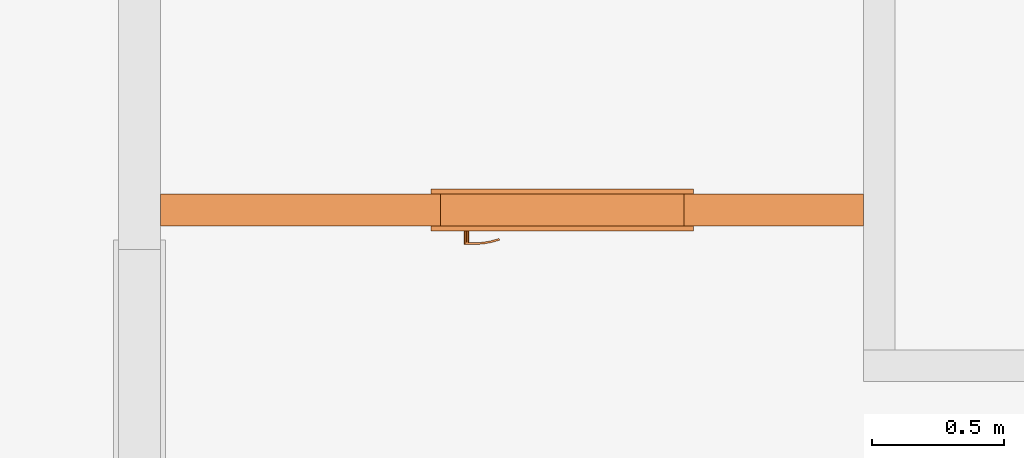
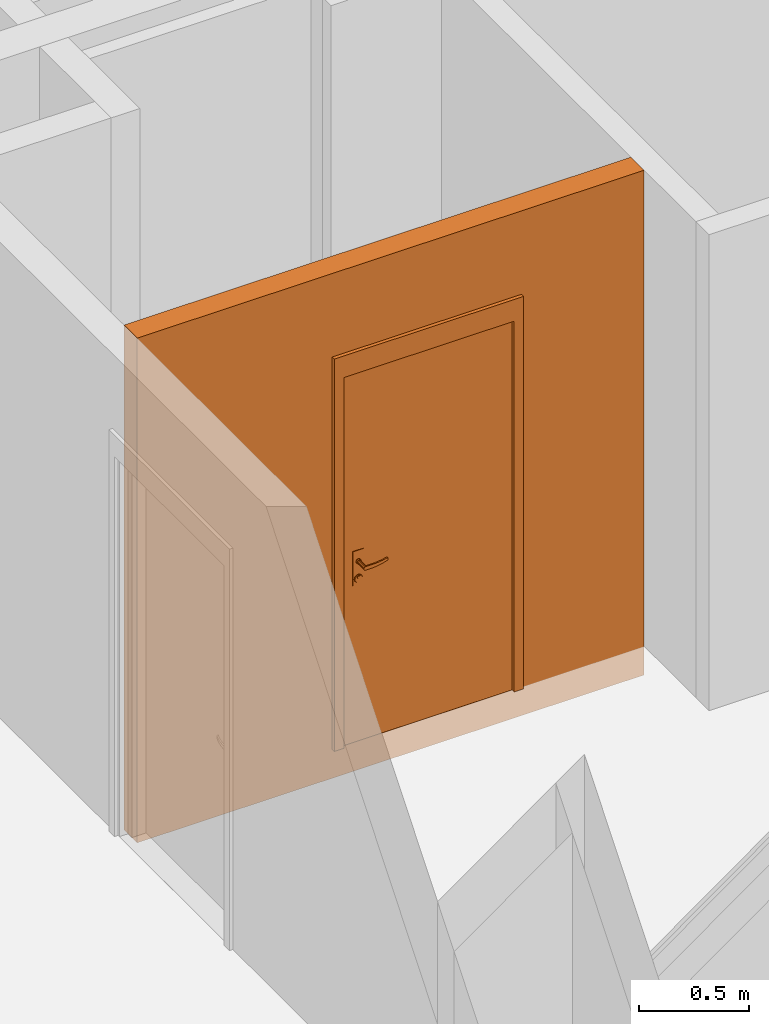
# One storey, part 29 of 64: 2 proxies, 1 opening.
"""IFC2X3 building model written with IfcOpenShell, lengths in millimetres."""

import ifcopenshell
import ifcopenshell.guid

model = None  # the IFC model being written
_history = None  # IfcOwnerHistory: only IFC2X3 demands one
_inside = {}  # id of a spatial element -> (the spatial element, [elements in it])
_under = {}  # id of a project, library or spatial element -> (it, [spatial elements below it])
_declared = {}  # id of a project -> (the project, [libraries it declares])
_typed = {}  # id of a type object -> (the type object, [elements of that type])
_made_of = {}  # id of a material, layer set ... -> (it, [elements and type objects made of it])


def new_model(schema):
    """Start an empty IFC model of exactly this schema.

    Asked for "IFC4X3", IfcOpenShell would pick the latest addendum, in which some entities
    have other attributes; the version numbers below select the first issue.
    IFC2X3 requires an IfcOwnerHistory on every rooted entity: one is made here for all.
    """
    global model, _history
    if schema == "IFC4X3":
        model = ifcopenshell.file(schema_version=(4, 3, 0, 0))
    else:
        model = ifcopenshell.file(schema=schema)
    _inside.clear()
    _under.clear()
    _declared.clear()
    _typed.clear()
    _made_of.clear()
    _history = None
    if model.schema == "IFC2X3":
        org = make("IfcOrganization", Name="unknown")
        user = make(
            "IfcPersonAndOrganization",
            ThePerson=make("IfcPerson", FamilyName="unknown"),
            TheOrganization=org,
        )
        app = make(
            "IfcApplication",
            ApplicationDeveloper=org,
            Version="unknown",
            ApplicationFullName="unknown",
            ApplicationIdentifier="unknown",
        )
        _history = make(
            "IfcOwnerHistory",
            OwningUser=user,
            OwningApplication=app,
            ChangeAction="ADDED",
            CreationDate=0,
        )
    return model


def make(cls, **values):
    """One entity of the class cls with the attributes given. An attribute that is None is left unset."""
    return model.create_entity(
        cls, **{name: value for name, value in values.items() if value is not None}
    )


def entity(cls, *values):
    """Any entity or typed value of the class cls, its attributes in the order of the schema. None: left unset."""
    e = model.create_entity(cls)
    for i, value in enumerate(values):
        if value is not None:
            e[i] = value
    return e


def rooted(cls, **values):
    """An entity with a GlobalId (a new one), such as an element, a storey or a relation."""
    return make(cls, GlobalId=ifcopenshell.guid.new(), OwnerHistory=_history, **values)


def si_unit(unit_type, name, prefix=None):
    """IfcSIUnit, for example si_unit("LENGTHUNIT", "METRE", prefix="MILLI")."""
    return make("IfcSIUnit", UnitType=unit_type, Prefix=prefix, Name=name)


def converted_unit(unit_type, name, factor, base, dimensions=None, offset=None):
    """IfcConversionBasedUnit, such as the inch: factor (a typed value) times the base unit."""
    return make(
        "IfcConversionBasedUnit"
        if offset is None
        else "IfcConversionBasedUnitWithOffset",
        ConversionOffset=offset,
        Dimensions=None
        if dimensions is None
        else entity("IfcDimensionalExponents", *dimensions),
        UnitType=unit_type,
        Name=name,
        ConversionFactor=make(
            "IfcMeasureWithUnit", ValueComponent=factor, UnitComponent=base
        ),
    )


def derived_unit(unit_type, elements):
    """IfcDerivedUnit: a product of units, each with its exponent."""
    return make(
        "IfcDerivedUnit",
        Elements=[
            make("IfcDerivedUnitElement", Unit=unit, Exponent=power)
            for unit, power in elements
        ],
        UnitType=unit_type,
    )


def money_unit(currency):
    """IfcMonetaryUnit."""
    return make("IfcMonetaryUnit", Currency=currency)


def assignment(units):
    """IfcUnitAssignment: the units of a project."""
    return None if units is None else make("IfcUnitAssignment", Units=units)


def point(xyz):
    """IfcCartesianPoint."""
    return None if xyz is None else make("IfcCartesianPoint", Coordinates=xyz)


def direction(xyz):
    """IfcDirection."""
    return None if xyz is None else make("IfcDirection", DirectionRatios=xyz)


def frame(location, z_axis=None, x_axis=None):
    """IfcAxis2Placement3D, a coordinate frame: its origin and axes. An axis left out is left unset."""
    return make(
        "IfcAxis2Placement3D",
        Location=point(location),
        Axis=direction(z_axis),
        RefDirection=direction(x_axis),
    )


def frame_2d(location, x_axis=None):
    """IfcAxis2Placement2D, a coordinate frame in the plane: its origin and x axis."""
    return make(
        "IfcAxis2Placement2D", Location=point(location), RefDirection=direction(x_axis)
    )


def origin_with_axes():
    """The frame at (0, 0, 0) with the z axis (0, 0, 1) and the x axis (1, 0, 0) written out."""
    return frame((0.0, 0.0, 0.0), z_axis=(0.0, 0.0, 1.0), x_axis=(1.0, 0.0, 0.0))


def origin_2d_with_axis():
    """The frame at (0, 0) in the plane with the x axis (1, 0) written out."""
    return frame_2d((0.0, 0.0), x_axis=(1.0, 0.0))


def place(relative_to, where):
    """IfcLocalPlacement: puts the frame where relative to a parent placement (None: the world)."""
    return make(
        "IfcLocalPlacement", PlacementRelTo=relative_to, RelativePlacement=where
    )


def context(
    kind, dimensions, precision=None, world=None, true_north=None, identifier=None
):
    """IfcGeometricRepresentationContext, for example the 3D "Model" context."""
    return make(
        "IfcGeometricRepresentationContext",
        ContextIdentifier=identifier,
        ContextType=kind,
        CoordinateSpaceDimension=dimensions,
        Precision=precision,
        WorldCoordinateSystem=world,
        TrueNorth=true_north,
    )


def subcontext(parent, identifier, kind, view, scale=None):
    """IfcGeometricRepresentationSubContext, for example "Body" below "Model"."""
    return make(
        "IfcGeometricRepresentationSubContext",
        ContextIdentifier=identifier,
        ContextType=kind,
        ParentContext=parent,
        TargetScale=scale,
        TargetView=view,
    )


def project(units=None, contexts=None):
    """IfcProject with its units and contexts."""
    return rooted(
        "IfcProject",
        Name="project",
        RepresentationContexts=contexts,
        UnitsInContext=assignment(units),
    )


def spatial(cls, under=None, at=None, **own):
    """A site, building, storey or space (cls), placed at a placement, below another one or the project."""
    s = rooted(cls, ObjectPlacement=at, **own)
    if under is not None:
        _under.setdefault(under.id(), (under, []))[1].append(s)
    return s


def profile(cls, at=None, kind="AREA", **sizes):
    """A parametric profile (cls). Its sizes go by their IFC names, for example OverallWidth=200.0."""
    return make(cls, ProfileType=kind, Position=at, **sizes)


def rectangle(**sizes):
    """IfcRectangleProfileDef."""
    return profile("IfcRectangleProfileDef", **sizes)


def extrude(swept, where, along, depth):
    """IfcExtrudedAreaSolid: the profile swept, set in the frame where, extruded along a direction by depth."""
    return make(
        "IfcExtrudedAreaSolid",
        SweptArea=swept,
        Position=where,
        ExtrudedDirection=direction(along),
        Depth=depth,
    )


def faces_of(points, faces, orient=None, outer=None):
    """IfcFace entities. A face is a list of loops; a loop is a list of indices into points, from 0.

    orient and outer hold one flag for each loop. By default every Orientation is true, the
    first loop of a face is its IfcFaceOuterBound and the others are IfcFaceBound.
    """
    made = []
    for i, loops in enumerate(faces):
        bounds = []
        for j, loop in enumerate(loops):
            is_outer = j == 0 if outer is None else outer[i][j]
            bounds.append(
                make(
                    "IfcFaceOuterBound" if is_outer else "IfcFaceBound",
                    Bound=make("IfcPolyLoop", Polygon=[points[k] for k in loop]),
                    Orientation=True if orient is None else orient[i][j],
                )
            )
        made.append(make("IfcFace", Bounds=bounds))
    return made


def open_shell(faces, orient=None, outer=None):
    """The faces of one IfcOpenShell. surface_model builds it on its shared points."""
    return ("IfcOpenShell", faces, orient, outer)


def faceted_brep(points, faces, orient=None, outer=None, voids=None):
    """IfcFacetedBrep: a solid bounded by flat faces; with voids (closed shells), ...WithVoids."""
    shared = [point(p) for p in points]
    hull = make("IfcClosedShell", CfsFaces=faces_of(shared, faces, orient, outer))
    if voids is None:
        return make("IfcFacetedBrep", Outer=hull)
    return make(
        "IfcFacetedBrepWithVoids",
        Outer=hull,
        Voids=[
            make(cls, CfsFaces=faces_of(shared, fs, o, b)) for cls, fs, o, b in voids
        ],
    )


def surface_model(cls, points, shells):
    """IfcFaceBasedSurfaceModel or IfcShellBasedSurfaceModel (cls): surfaces that need not close."""
    shared = [point(p) for p in points]
    made = [make(c, CfsFaces=faces_of(shared, fs, o, b)) for c, fs, o, b in shells]
    if cls == "IfcFaceBasedSurfaceModel":
        return make(cls, FbsmFaces=made)
    return make(cls, SbsmBoundary=made)


def shape(context_of_items, identifier, shape_type, items):
    """IfcShapeRepresentation: the items that make up one representation, for example the "Body"."""
    return make(
        "IfcShapeRepresentation",
        ContextOfItems=context_of_items,
        RepresentationIdentifier=identifier,
        RepresentationType=shape_type,
        Items=items,
    )


def source(mapping_origin, context_of_items, identifier, shape_type, items):
    """IfcRepresentationMap: a shape defined once, which mapped items show again and again."""
    return make(
        "IfcRepresentationMap",
        MappingOrigin=mapping_origin,
        MappedRepresentation=shape(context_of_items, identifier, shape_type, items),
    )


def transform(
    local_origin,
    x_axis=None,
    y_axis=None,
    z_axis=None,
    scale=None,
    scale2=None,
    scale3=None,
    uniform=True,
):
    """IfcCartesianTransformationOperator3D, or its non-uniform kind. x_axis, y_axis, z_axis: its Axis1, 2, 3."""
    if uniform:
        return make(
            "IfcCartesianTransformationOperator3D",
            Axis1=direction(x_axis),
            Axis2=direction(y_axis),
            LocalOrigin=point(local_origin),
            Scale=scale,
            Axis3=direction(z_axis),
        )
    return make(
        "IfcCartesianTransformationOperator3DnonUniform",
        Axis1=direction(x_axis),
        Axis2=direction(y_axis),
        LocalOrigin=point(local_origin),
        Scale=scale,
        Axis3=direction(z_axis),
        Scale2=scale2,
        Scale3=scale3,
    )


def mapped(mapping_source, mapping_target):
    """IfcMappedItem: shows the shape of a source again, moved by a transform."""
    return make(
        "IfcMappedItem", MappingSource=mapping_source, MappingTarget=mapping_target
    )


def material(Name=None, Category=None):
    """IfcMaterial."""
    return make("IfcMaterial", Name=Name, Category=Category)


def made_of(thing, what):
    """Note that an element or type object is made of a material, layer set ...; save() writes the relation."""
    if what is not None:
        _made_of.setdefault(what.id(), (what, []))[1].append(thing)
    return thing


def type_object(cls, material=None, **own):
    """A type object (cls), such as IfcWallType, which elements share."""
    return made_of(rooted(cls, **own), material)


def element(
    cls,
    number,
    at=None,
    inside=None,
    cuts=None,
    type_object=None,
    material=None,
    context=None,
    identifier="Body",
    shape_type=None,
    held_by="IfcProductDefinitionShape",
    body=None,
    shapes=None,
    **own,
):
    """One element of the class cls, such as IfcWall. Its Tag is "e" and its number.

    at: its placement. inside: the storey or other place that contains it. cuts: it is an
    opening in that element (IfcRelVoidsElement). A single representation is given by context,
    identifier, shape_type and body (its items); several are given by shapes. held_by: the class
    of the entity that holds the representations. save() writes the other relations.
    """
    e = rooted(cls, Tag="e%d" % number, ObjectPlacement=at, **own)
    if body is not None:
        shapes = [shape(context, identifier, shape_type, body)]
    if shapes is not None:
        e.Representation = make(held_by, Representations=shapes)
    if inside is not None:
        _inside.setdefault(inside.id(), (inside, []))[1].append(e)
    if cuts is not None:
        rooted(
            "IfcRelVoidsElement", RelatingBuildingElement=cuts, RelatedOpeningElement=e
        )
    if type_object is not None:
        _typed.setdefault(type_object.id(), (type_object, []))[1].append(e)
    return made_of(e, material)


def fill(opening, filler):
    """IfcRelFillsElement: the door or window that sits in an opening."""
    return rooted(
        "IfcRelFillsElement",
        RelatingOpeningElement=opening,
        RelatedBuildingElement=filler,
    )


def aggregate(whole, parts):
    """IfcRelAggregates: a whole, such as a stair, and the parts it consists of."""
    return rooted("IfcRelAggregates", RelatingObject=whole, RelatedObjects=parts)


def save(model, path):
    """Write the relations noted so far, then the file.

    IfcRelAggregates (storeys below a building ...), IfcRelContainedInSpatialStructure (elements
    in a storey), IfcRelDefinesByType, IfcRelAssociatesMaterial and IfcRelDeclares: one each for
    every whole, place, type object, material and project.
    """
    for whole, parts in _under.values():
        aggregate(whole, parts)
    for where, things in _inside.values():
        rooted(
            "IfcRelContainedInSpatialStructure",
            RelatedElements=things,
            RelatingStructure=where,
        )
    for kind, things in _typed.values():
        rooted("IfcRelDefinesByType", RelatedObjects=things, RelatingType=kind)
    for what, things in _made_of.values():
        rooted("IfcRelAssociatesMaterial", RelatedObjects=things, RelatingMaterial=what)
    for by, libraries in _declared.values():
        rooted("IfcRelDeclares", RelatingContext=by, RelatedDefinitions=libraries)
    model.write(path)


model = new_model("IFC2X3")

# Units and contexts
model_context = context("Model", 3, precision=0.01, world=origin_with_axes(), true_north=direction((0.34421633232, 0.938890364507)))
body_context = subcontext(model_context, "Body", "Model", "MODEL_VIEW")
ifc_project = project(units=[si_unit("LENGTHUNIT", "METRE", prefix="MILLI"), si_unit("AREAUNIT", "SQUARE_METRE"), si_unit("VOLUMEUNIT", "CUBIC_METRE"), converted_unit("PLANEANGLEUNIT", "DEGREE", entity("IfcPlaneAngleMeasure", 0.0174532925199), si_unit("PLANEANGLEUNIT", "RADIAN"), dimensions=[0, 0, 0, 0, 0, 0, 0]), si_unit("SOLIDANGLEUNIT", "STERADIAN"), money_unit("USD"), converted_unit("TIMEUNIT", "Year", entity("IfcTimeMeasure", 31556926.0), si_unit("TIMEUNIT", "SECOND"), dimensions=[0, 0, 1, 0, 0, 0, 0]), si_unit("MASSUNIT", "GRAM", prefix="KILO"), si_unit("THERMODYNAMICTEMPERATUREUNIT", "DEGREE_CELSIUS"), si_unit("LUMINOUSINTENSITYUNIT", "LUMEN"), si_unit("ENERGYUNIT", "JOULE", prefix="MEGA"), derived_unit("THERMALCONDUCTANCEUNIT", [(si_unit("POWERUNIT", "WATT"), 1), (si_unit("LENGTHUNIT", "METRE"), -1), (si_unit("THERMODYNAMICTEMPERATUREUNIT", "KELVIN"), -1)]), derived_unit("SPECIFICHEATCAPACITYUNIT", [(si_unit("ENERGYUNIT", "JOULE"), 1), (si_unit("MASSUNIT", "GRAM", prefix="KILO"), -1), (si_unit("THERMODYNAMICTEMPERATUREUNIT", "KELVIN"), -1)]), derived_unit("MASSDENSITYUNIT", [(si_unit("MASSUNIT", "GRAM", prefix="KILO"), 1), (si_unit("VOLUMEUNIT", "CUBIC_METRE"), -1)])], contexts=[model_context])

# Site, building, storey
site_placement = place(None, origin_with_axes())
site = spatial("IfcSite", under=ifc_project, at=site_placement, Name="USTRONIE MORSKIE", CompositionType="ELEMENT")
building_placement = place(site_placement, origin_with_axes())
building = spatial("IfcBuilding", under=site, at=building_placement, Name="Budynek", CompositionType="ELEMENT")
storey_placement = place(building_placement, frame((0.0, 0.0, 7000.0), z_axis=(0.0, 0.0, 1.0), x_axis=(1.0, 0.0, 0.0)))
storey = spatial("IfcBuildingStorey", under=building, at=storey_placement, Name="PIĘTRO 2", CompositionType="ELEMENT", Elevation=7000.0)

# Proxies, opening
ifc_material = material(Name="Bloczki silikatowe")
building_element_proxy_type_1 = type_object("IfcBuildingElementProxyType", Name="Bloczki silikatowe 120", PredefinedType="NOTDEFINED")
proxy_1_placement = place(storey_placement, frame((420917.920919, 724641.179437, -160.0), z_axis=(0.0, 0.0, 1.0), x_axis=(-1.0, 0.0, 0.0)))
proxy_1 = element("IfcBuildingElementProxy", 1, at=proxy_1_placement, inside=storey, type_object=building_element_proxy_type_1, material=ifc_material, Name="SW-04", context=body_context, shape_type="Brep", body=[
    faceted_brep([(2720.0, 59.9999999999, 0.0), (2720.0, -59.9999999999, 0.0), (60.0, -59.9999999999, 0.0), (60.0, 59.9999999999, 0.0), (2720.0, 59.9999999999, 2800.0), (2720.0, -59.9999999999, 2800.0), (60.0, -59.9999999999, 2800.0), (60.0, 59.9999999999, 2800.0)], [[[0, 1, 2, 3]], [[1, 0, 4, 5]], [[1, 5, 6, 2]], [[7, 3, 2, 6]], [[4, 0, 3, 7]], [[5, 4, 7, 6]]]),
])
opening_placement = place(proxy_1_placement, frame((1200.0, 1.13686837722e-10, 160.0), z_axis=(0.0, 0.0, 1.0), x_axis=(1.0, 0.0, 0.0)))
opening = element("IfcOpeningElement", 2, at=opening_placement, cuts=proxy_1, Name="Dw.4", context=body_context, shape_type="SweptSolid", body=[
    extrude(rectangle(XDim=920.0, YDim=2070.0, at=origin_2d_with_axis()), frame((0.0, -120.0, 1035.0), z_axis=(0.0, -1.0, 0.0), x_axis=(-1.0, 0.0, 0.0)), (0.0, 0.0, -1.0), 360.0),
    extrude(rectangle(XDim=994.0, YDim=2177.0, at=origin_2d_with_axis()), frame((0.0, -59.9999999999, 1088.5), z_axis=(0.0, -1.0, 0.0), x_axis=(-1.0, 0.0, 0.0)), (0.0, 0.0, 1.0), 120.0),
    extrude(rectangle(XDim=994.0, YDim=2177.0, at=origin_2d_with_axis()), frame((0.0, 60.0000000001, 1088.5), z_axis=(0.0, 1.0, 0.0), x_axis=(-1.0, 0.0, 0.0)), (0.0, 0.0, 1.0), 120.0),
])
building_element_proxy_type_2 = type_object("IfcBuildingElementProxyType", Name="Drzwi 23", PredefinedType="NOTDEFINED")
shared_shape = source(origin_with_axes(), body_context, "Body", "SurfaceModel", [
    faceted_brep([(460.0, -115.0, 0.0), (460.0, -120.0, 0.0), (435.0, -120.0, 0.0), (435.0, -115.0, 0.0), (460.0, -115.0, 2070.0), (460.0, -120.0, 2070.0), (435.0, -120.0, 2045.0), (435.0, -115.0, 2045.0)], [[[0, 1, 2, 3]], [[4, 5, 1, 0]], [[1, 5, 6, 2]], [[3, 2, 6, 7]], [[0, 3, 7, 4]], [[7, 6, 5, 4]]]),
    faceted_brep([(-460.0, -115.0, 2070.0), (-460.0, -120.0, 2070.0), (-435.0, -120.0, 2045.0), (-435.0, -115.0, 2045.0), (-460.0, -115.0, 0.0), (-460.0, -120.0, 0.0), (-435.0, -120.0, 0.0), (-435.0, -115.0, 0.0)], [[[0, 1, 2, 3]], [[4, 5, 1, 0]], [[1, 5, 6, 2]], [[3, 2, 6, 7]], [[0, 3, 7, 4]], [[7, 6, 5, 4]]]),
    faceted_brep([(435.0, -115.0, 2045.0), (435.0, -120.0, 2045.0), (-435.0, -120.0, 2045.0), (-435.0, -115.0, 2045.0), (460.0, -115.0, 2070.0), (460.0, -120.0, 2070.0), (-460.0, -120.0, 2070.0), (-460.0, -115.0, 2070.0)], [[[0, 1, 2, 3]], [[4, 5, 1, 0]], [[1, 5, 6, 2]], [[3, 2, 6, 7]], [[0, 3, 7, 4]], [[7, 6, 5, 4]]]),
    faceted_brep([(497.0, -139.0, 0.0), (447.0, -139.0, 0.0), (447.0, -120.0, 0.0), (497.0, -120.0, 0.0), (497.0, -139.0, 2177.0), (447.0, -139.0, 2057.0), (447.0, -120.0, 2057.0), (497.0, -120.0, 2177.0)], [[[0, 1, 2, 3]], [[0, 4, 5, 1]], [[1, 5, 6, 2]], [[3, 2, 6, 7]], [[4, 0, 3, 7]], [[5, 4, 7, 6]]]),
    faceted_brep([(-497.0, -139.0, 2177.0), (-447.0, -139.0, 2057.0), (-447.0, -120.0, 2057.0), (-497.0, -120.0, 2177.0), (-497.0, -139.0, 0.0), (-447.0, -139.0, 0.0), (-447.0, -120.0, 0.0), (-497.0, -120.0, 0.0)], [[[0, 1, 2, 3]], [[0, 4, 5, 1]], [[1, 5, 6, 2]], [[3, 2, 6, 7]], [[4, 0, 3, 7]], [[5, 4, 7, 6]]]),
    faceted_brep([(497.0, -139.0, 2177.0), (447.0, -139.0, 2057.0), (447.0, -120.0, 2057.0), (497.0, -120.0, 2177.0), (-497.0, -139.0, 2177.0), (-447.0, -139.0, 2057.0), (-447.0, -120.0, 2057.0), (-497.0, -120.0, 2177.0)], [[[0, 1, 2, 3]], [[0, 4, 5, 1]], [[1, 5, 6, 2]], [[3, 2, 6, 7]], [[4, 0, 3, 7]], [[5, 4, 7, 6]]]),
    faceted_brep([(497.0, 19.0, 0.0), (497.0, 0.0, 0.0), (447.0, 0.0, 0.0), (447.0, 19.0, 0.0), (497.0, 19.0, 2177.0), (497.0, 0.0, 2177.0), (447.0, 0.0, 2057.0), (447.0, 19.0, 2057.0)], [[[0, 1, 2, 3]], [[4, 5, 1, 0]], [[1, 5, 6, 2]], [[3, 2, 6, 7]], [[0, 3, 7, 4]], [[7, 6, 5, 4]]]),
    faceted_brep([(-497.0, 19.0, 2177.0), (-497.0, 0.0, 2177.0), (-447.0, 0.0, 2057.0), (-447.0, 19.0, 2057.0), (-497.0, 19.0, 0.0), (-497.0, 0.0, 0.0), (-447.0, 0.0, 0.0), (-447.0, 19.0, 0.0)], [[[0, 1, 2, 3]], [[4, 5, 1, 0]], [[1, 5, 6, 2]], [[3, 2, 6, 7]], [[0, 3, 7, 4]], [[7, 6, 5, 4]]]),
    faceted_brep([(497.0, 19.0, 2177.0), (497.0, 0.0, 2177.0), (447.0, 0.0, 2057.0), (447.0, 19.0, 2057.0), (-497.0, 19.0, 2177.0), (-497.0, 0.0, 2177.0), (-447.0, 0.0, 2057.0), (-447.0, 19.0, 2057.0)], [[[0, 1, 2, 3]], [[4, 5, 1, 0]], [[1, 5, 6, 2]], [[3, 2, 6, 7]], [[0, 3, 7, 4]], [[7, 6, 5, 4]]]),
    faceted_brep([(400.0, -40.0, 0.0), (400.0, -115.0, 0.0), (400.0, -115.0, 2000.0), (400.0, -40.0, 2000.0), (412.0, -40.0, 0.0), (412.0, 0.0, 0.0), (460.0, 0.0, 0.0), (460.0, -115.0, 0.0), (460.0, -115.0, 2000.0), (412.0, -40.0, 2000.0), (460.0, 0.0, 2000.0), (412.0, 0.0, 2000.0)], [[[0, 1, 2, 3]], [[4, 5, 6, 7, 1, 0]], [[1, 7, 8, 2]], [[9, 3, 2, 8, 10, 11]], [[9, 4, 0, 3]], [[11, 5, 4, 9]], [[11, 10, 6, 5]], [[6, 10, 8, 7]]]),
    faceted_brep([(-412.0, -40.0, 2000.0), (-412.0, 0.0, 2000.0), (-460.0, 0.0, 2000.0), (-460.0, -115.0, 2000.0), (-400.0, -115.0, 2000.0), (-400.0, -40.0, 2000.0), (-412.0, -40.0, 0.0), (-412.0, 0.0, 0.0), (-460.0, 0.0, 0.0), (-460.0, -115.0, 0.0), (-400.0, -115.0, 0.0), (-400.0, -40.0, 0.0)], [[[0, 1, 2, 3, 4, 5]], [[0, 6, 7, 1]], [[7, 8, 2, 1]], [[2, 8, 9, 3]], [[3, 9, 10, 4]], [[5, 4, 10, 11]], [[5, 11, 6, 0]], [[6, 11, 10, 9, 8, 7]]]),
    faceted_brep([(412.0, 0.0, 2012.0), (-412.0, 0.0, 2012.0), (-412.0, 0.0, 2000.0), (-460.0, 0.0, 2000.0), (-460.0, 0.0, 2070.0), (460.0, 0.0, 2070.0), (460.0, 0.0, 2000.0), (412.0, 0.0, 2000.0), (412.0, -40.0, 2012.0), (-412.0, -40.0, 2012.0), (-412.0, -40.0, 2000.0), (-400.0, -40.0, 2000.0), (-400.0, -115.0, 2000.0), (-460.0, -115.0, 2000.0), (-460.0, -115.0, 2070.0), (460.0, -115.0, 2070.0), (460.0, -115.0, 2000.0), (412.0, -40.0, 2000.0), (400.0, -115.0, 2000.0), (400.0, -40.0, 2000.0)], [[[0, 1, 2, 3, 4, 5, 6, 7]], [[0, 8, 9, 1]], [[1, 9, 10, 2]], [[10, 11, 12, 13, 3, 2]], [[4, 3, 13, 14]], [[5, 4, 14, 15]], [[6, 5, 15, 16]], [[17, 7, 6, 16, 18, 19]], [[7, 17, 8, 0]], [[10, 9, 8, 17, 19, 11]], [[19, 18, 12, 11]], [[12, 18, 16, 15, 14, 13]]]),
    faceted_brep([(390.5, -40.0, 1060.0), (333.5, -40.0, 1060.0), (333.5, -43.0, 1060.0), (390.5, -43.0, 1060.0), (390.5, -40.0, 870.0), (333.5, -40.0, 870.0), (333.5, -43.0, 870.0), (390.5, -43.0, 870.0)], [[[0, 1, 2, 3]], [[0, 4, 5, 1]], [[1, 5, 6, 2]], [[3, 2, 6, 7]], [[4, 0, 3, 7]], [[5, 4, 7, 6]]]),
    faceted_brep([(362.0, -104.0, 990.0), (367.0, -104.0, 991.339745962), (367.0, -111.0, 991.339745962), (362.0, -111.0, 990.0), (337.0, -104.0, 990.0), (337.0, -104.0, 1010.0), (362.0, -104.0, 1010.0), (367.0, -104.0, 1008.66025404), (370.660254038, -104.0, 1005.0), (372.0, -104.0, 1000.0), (370.660254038, -104.0, 995.0), (370.660254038, -111.0, 995.0), (372.0, -111.0, 1000.0), (370.660254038, -111.0, 1005.0), (367.0, -111.0, 1008.66025404), (362.0, -111.0, 1010.0), (337.0, -111.0, 1010.0), (337.0, -111.0, 990.0)], [[[0, 1, 2, 3]], [[0, 4, 5, 6, 7, 8, 9, 10, 1]], [[1, 10, 11, 2]], [[3, 2, 11, 12, 13, 14, 15, 16, 17]], [[4, 0, 3, 17]], [[5, 4, 17, 16]], [[6, 5, 16, 15]], [[7, 6, 15, 14]], [[8, 7, 14, 13]], [[9, 8, 13, 12]], [[10, 9, 12, 11]]]),
    surface_model("IfcShellBasedSurfaceModel", [(337.0, -104.0, 1010.0), (323.901717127, -104.0, 1009.60730092), (323.596090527, -111.0, 1009.60730092), (337.0, -104.0, 990.0), (323.901717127, -104.0, 990.392699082), (296.890283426, -108.663544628, 1008.82190275), (337.0, -111.0, 1010.0), (337.0, -111.0, 990.0), (297.804837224, -101.716818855, 991.178097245), (297.804837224, -101.716818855, 1008.82190275), (296.890283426, -108.663544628, 991.178097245), (323.596090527, -111.0, 990.392699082), (272.006256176, -97.1678329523, 991.963495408), (272.006256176, -97.1678329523, 1008.03650459), (270.489735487, -104.008415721, 1008.03650459), (270.489735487, -104.008415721, 991.963495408), (246.702316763, -90.3876628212, 992.748893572), (246.702316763, -90.3876628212, 1007.25110643), (244.59537082, -97.0700416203, 1007.25110643), (244.59537082, -97.0700416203, 992.748893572), (238.829442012, -87.5221707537, 993.0), (238.829442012, -87.5221707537, 1007.0), (236.538795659, -94.1376880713, 1007.0), (236.538795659, -94.1376880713, 993.0)], [open_shell([[[0, 1, 2]], [[0, 3, 4, 1]], [[1, 5, 2]], [[0, 2, 6]], [[4, 3, 7]], [[1, 4, 8, 9]], [[1, 9, 5]], [[2, 5, 10, 11]], [[6, 2, 11, 7]], [[4, 7, 11]], [[8, 4, 11]], [[9, 8, 12, 13]], [[9, 14, 5]], [[5, 14, 15, 10]], [[8, 11, 10]], [[12, 8, 10]], [[13, 12, 16, 17]], [[9, 13, 14]], [[14, 18, 19, 15]], [[12, 10, 15]], [[16, 12, 15]], [[17, 16, 20, 21]], [[13, 17, 18]], [[13, 18, 14]], [[18, 22, 23, 19]], [[16, 15, 19]], [[20, 16, 19]], [[21, 20, 23, 22]], [[17, 21, 22]], [[17, 22, 18]], [[20, 19, 23]]])]),
    faceted_brep([(351.607695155, -53.0, 994.0), (350.0, -53.0, 1000.0), (349.0, -43.0, 1000.0), (350.741669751, -43.0, 993.5), (356.0, -53.0, 989.607695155), (362.0, -53.0, 988.0), (368.0, -53.0, 989.607695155), (372.392304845, -53.0, 994.0), (374.0, -53.0, 1000.0), (372.392304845, -53.0, 1006.0), (368.0, -53.0, 1010.39230485), (362.0, -53.0, 1012.0), (356.0, -53.0, 1010.39230485), (351.607695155, -53.0, 1006.0), (350.741669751, -43.0, 1006.5), (355.5, -43.0, 1011.25833025), (362.0, -43.0, 1013.0), (368.5, -43.0, 1011.25833025), (373.258330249, -43.0, 1006.5), (375.0, -43.0, 1000.0), (373.258330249, -43.0, 993.5), (368.5, -43.0, 988.741669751), (362.0, -43.0, 987.0), (355.5, -43.0, 988.741669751)], [[[0, 1, 2, 3]], [[1, 0, 4, 5, 6, 7, 8, 9, 10, 11, 12, 13]], [[1, 13, 14, 2]], [[2, 14, 15, 16, 17, 18, 19, 20, 21, 22, 23, 3]], [[4, 0, 3, 23]], [[5, 4, 23, 22]], [[6, 5, 22, 21]], [[7, 6, 21, 20]], [[8, 7, 20, 19]], [[9, 8, 19, 18]], [[10, 9, 18, 17]], [[11, 10, 17, 16]], [[12, 11, 16, 15]], [[13, 12, 15, 14]]]),
    faceted_brep([(344.679491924, -47.0, 895.0), (342.0, -47.0, 905.0), (340.0, -43.0, 905.0), (342.947441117, -43.0, 894.0), (352.0, -47.0, 887.679491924), (362.0, -47.0, 885.0), (372.0, -47.0, 887.679491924), (379.320508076, -47.0, 895.0), (382.0, -47.0, 905.0), (379.320508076, -47.0, 915.0), (372.0, -47.0, 922.320508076), (362.0, -47.0, 925.0), (352.0, -47.0, 922.320508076), (344.679491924, -47.0, 915.0), (342.947441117, -43.0, 916.0), (351.0, -43.0, 924.052558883), (362.0, -43.0, 927.0), (373.0, -43.0, 924.052558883), (381.052558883, -43.0, 916.0), (384.0, -43.0, 905.0), (381.052558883, -43.0, 894.0), (373.0, -43.0, 885.947441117), (362.0, -43.0, 883.0), (351.0, -43.0, 885.947441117)], [[[0, 1, 2, 3]], [[1, 0, 4, 5, 6, 7, 8, 9, 10, 11, 12, 13]], [[1, 13, 14, 2]], [[2, 14, 15, 16, 17, 18, 19, 20, 21, 22, 23, 3]], [[4, 0, 3, 23]], [[5, 4, 23, 22]], [[6, 5, 22, 21]], [[7, 6, 21, 20]], [[8, 7, 20, 19]], [[9, 8, 19, 18]], [[10, 9, 18, 17]], [[11, 10, 17, 16]], [[12, 11, 16, 15]], [[13, 12, 15, 14]]]),
    faceted_brep([(357.050252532, -49.0, 909.050252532), (355.0, -49.0, 914.0), (354.0, -47.0, 914.0), (356.343145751, -47.0, 908.343145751), (362.0, -49.0, 907.0), (366.949747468, -49.0, 909.050252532), (369.0, -49.0, 914.0), (366.949747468, -49.0, 918.949747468), (362.0, -49.0, 921.0), (357.050252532, -49.0, 918.949747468), (356.343145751, -47.0, 919.656854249), (362.0, -47.0, 922.0), (367.656854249, -47.0, 919.656854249), (370.0, -47.0, 914.0), (367.656854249, -47.0, 908.343145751), (362.0, -47.0, 906.0)], [[[0, 1, 2, 3]], [[1, 0, 4, 5, 6, 7, 8, 9]], [[1, 9, 10, 2]], [[2, 10, 11, 12, 13, 14, 15, 3]], [[4, 0, 3, 15]], [[5, 4, 15, 14]], [[6, 5, 14, 13]], [[7, 6, 13, 12]], [[8, 7, 12, 11]], [[9, 8, 11, 10]]]),
    faceted_brep([(362.0, -53.0, 1010.0), (357.0, -53.0, 1008.66025404), (357.0, -104.0, 1008.66025404), (362.0, -104.0, 1010.0), (367.0, -53.0, 1008.66025404), (370.660254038, -53.0, 1005.0), (372.0, -53.0, 1000.0), (370.660254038, -53.0, 995.0), (367.0, -53.0, 991.339745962), (362.0, -53.0, 990.0), (357.0, -53.0, 991.339745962), (353.339745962, -53.0, 995.0), (352.0, -53.0, 1000.0), (353.339745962, -53.0, 1005.0), (353.339745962, -104.0, 1005.0), (352.0, -104.0, 1000.0), (353.339745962, -104.0, 995.0), (357.0, -104.0, 991.339745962), (362.0, -104.0, 990.0), (367.0, -104.0, 991.339745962), (370.660254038, -104.0, 995.0), (372.0, -104.0, 1000.0), (370.660254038, -104.0, 1005.0), (367.0, -104.0, 1008.66025404)], [[[0, 1, 2, 3]], [[0, 4, 5, 6, 7, 8, 9, 10, 11, 12, 13, 1]], [[1, 13, 14, 2]], [[3, 2, 14, 15, 16, 17, 18, 19, 20, 21, 22, 23]], [[4, 0, 3, 23]], [[5, 4, 23, 22]], [[6, 5, 22, 21]], [[7, 6, 21, 20]], [[8, 7, 20, 19]], [[9, 8, 19, 18]], [[10, 9, 18, 17]], [[11, 10, 17, 16]], [[12, 11, 16, 15]], [[13, 12, 15, 14]]]),
    faceted_brep([(390.5, 0.0, 1060.0), (390.5, 3.0, 1060.0), (333.5, 3.0, 1060.0), (333.5, 0.0, 1060.0), (390.5, 0.0, 870.0), (390.5, 3.0, 870.0), (333.5, 3.0, 870.0), (333.5, 0.0, 870.0)], [[[0, 1, 2, 3]], [[4, 5, 1, 0]], [[1, 5, 6, 2]], [[3, 2, 6, 7]], [[0, 3, 7, 4]], [[7, 6, 5, 4]]]),
    faceted_brep([(362.0, 64.0, 990.0), (362.0, 71.0, 990.0), (367.0, 71.0, 991.339745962), (367.0, 64.0, 991.339745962), (337.0, 64.0, 990.0), (337.0, 71.0, 990.0), (337.0, 71.0, 1010.0), (362.0, 71.0, 1010.0), (367.0, 71.0, 1008.66025404), (370.660254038, 71.0, 1005.0), (372.0, 71.0, 1000.0), (370.660254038, 71.0, 995.0), (370.660254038, 64.0, 995.0), (372.0, 64.0, 1000.0), (370.660254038, 64.0, 1005.0), (367.0, 64.0, 1008.66025404), (362.0, 64.0, 1010.0), (337.0, 64.0, 1010.0)], [[[0, 1, 2, 3]], [[4, 5, 1, 0]], [[1, 5, 6, 7, 8, 9, 10, 11, 2]], [[3, 2, 11, 12]], [[0, 3, 12, 13, 14, 15, 16, 17, 4]], [[17, 6, 5, 4]], [[16, 7, 6, 17]], [[15, 8, 7, 16]], [[14, 9, 8, 15]], [[13, 10, 9, 14]], [[12, 11, 10, 13]]]),
    surface_model("IfcShellBasedSurfaceModel", [(337.0, 64.0, 1010.0), (323.596090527, 71.0, 1009.60730092), (323.901717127, 64.0, 1009.60730092), (337.0, 71.0, 1010.0), (296.890283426, 68.6635446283, 1008.82190275), (323.901717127, 64.0, 990.392699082), (337.0, 64.0, 990.0), (337.0, 71.0, 990.0), (323.596090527, 71.0, 990.392699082), (296.890283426, 68.6635446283, 991.178097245), (297.804837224, 61.716818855, 1008.82190275), (297.804837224, 61.716818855, 991.178097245), (270.489735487, 64.0084157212, 991.963495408), (270.489735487, 64.0084157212, 1008.03650459), (272.006256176, 57.1678329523, 1008.03650459), (272.006256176, 57.1678329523, 991.963495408), (244.59537082, 57.0700416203, 992.748893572), (244.59537082, 57.0700416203, 1007.25110643), (246.702316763, 50.3876628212, 1007.25110643), (246.702316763, 50.3876628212, 992.748893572), (236.538795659, 54.1376880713, 993.0), (236.538795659, 54.1376880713, 1007.0), (238.829442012, 47.5221707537, 1007.0), (238.829442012, 47.5221707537, 993.0)], [open_shell([[[0, 1, 2]], [[0, 3, 1]], [[2, 1, 4]], [[0, 2, 5, 6]], [[3, 7, 8, 1]], [[1, 8, 9, 4]], [[2, 4, 10]], [[2, 10, 11, 5]], [[5, 7, 6]], [[5, 8, 7]], [[11, 9, 8]], [[4, 9, 12, 13]], [[10, 4, 13]], [[10, 14, 15, 11]], [[11, 8, 5]], [[15, 9, 11]], [[15, 12, 9]], [[13, 12, 16, 17]], [[10, 13, 14]], [[14, 18, 19, 15]], [[19, 12, 15]], [[19, 16, 12]], [[17, 16, 20, 21]], [[14, 13, 17]], [[14, 17, 18]], [[18, 22, 23, 19]], [[23, 16, 19]], [[23, 20, 16]], [[22, 21, 20, 23]], [[18, 17, 21]], [[18, 21, 22]]])]),
    faceted_brep([(351.607695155, 13.0, 994.0), (350.741669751, 3.0, 993.5), (349.0, 3.0, 1000.0), (350.0, 13.0, 1000.0), (356.0, 13.0, 989.607695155), (355.5, 3.0, 988.741669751), (362.0, 3.0, 987.0), (368.5, 3.0, 988.741669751), (373.258330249, 3.0, 993.5), (375.0, 3.0, 1000.0), (373.258330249, 3.0, 1006.5), (368.5, 3.0, 1011.25833025), (362.0, 3.0, 1013.0), (355.5, 3.0, 1011.25833025), (350.741669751, 3.0, 1006.5), (351.607695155, 13.0, 1006.0), (356.0, 13.0, 1010.39230485), (362.0, 13.0, 1012.0), (368.0, 13.0, 1010.39230485), (372.392304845, 13.0, 1006.0), (374.0, 13.0, 1000.0), (372.392304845, 13.0, 994.0), (368.0, 13.0, 989.607695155), (362.0, 13.0, 988.0)], [[[0, 1, 2, 3]], [[4, 5, 1, 0]], [[2, 1, 5, 6, 7, 8, 9, 10, 11, 12, 13, 14]], [[3, 2, 14, 15]], [[3, 15, 16, 17, 18, 19, 20, 21, 22, 23, 4, 0]], [[23, 6, 5, 4]], [[22, 7, 6, 23]], [[21, 8, 7, 22]], [[20, 9, 8, 21]], [[19, 10, 9, 20]], [[18, 11, 10, 19]], [[17, 12, 11, 18]], [[16, 13, 12, 17]], [[15, 14, 13, 16]]]),
    faceted_brep([(344.679491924, 7.0, 895.0), (342.947441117, 3.0, 894.0), (340.0, 3.0, 905.0), (342.0, 7.0, 905.0), (352.0, 7.0, 887.679491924), (351.0, 3.0, 885.947441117), (362.0, 3.0, 883.0), (373.0, 3.0, 885.947441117), (381.052558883, 3.0, 894.0), (384.0, 3.0, 905.0), (381.052558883, 3.0, 916.0), (373.0, 3.0, 924.052558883), (362.0, 3.0, 927.0), (351.0, 3.0, 924.052558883), (342.947441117, 3.0, 916.0), (344.679491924, 7.0, 915.0), (352.0, 7.0, 922.320508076), (362.0, 7.0, 925.0), (372.0, 7.0, 922.320508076), (379.320508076, 7.0, 915.0), (382.0, 7.0, 905.0), (379.320508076, 7.0, 895.0), (372.0, 7.0, 887.679491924), (362.0, 7.0, 885.0)], [[[0, 1, 2, 3]], [[4, 5, 1, 0]], [[2, 1, 5, 6, 7, 8, 9, 10, 11, 12, 13, 14]], [[3, 2, 14, 15]], [[3, 15, 16, 17, 18, 19, 20, 21, 22, 23, 4, 0]], [[23, 6, 5, 4]], [[22, 7, 6, 23]], [[21, 8, 7, 22]], [[20, 9, 8, 21]], [[19, 10, 9, 20]], [[18, 11, 10, 19]], [[17, 12, 11, 18]], [[16, 13, 12, 17]], [[15, 14, 13, 16]]]),
    faceted_brep([(357.050252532, 9.0, 909.050252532), (356.343145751, 7.0, 908.343145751), (354.0, 7.0, 914.0), (355.0, 9.0, 914.0), (362.0, 9.0, 907.0), (362.0, 7.0, 906.0), (367.656854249, 7.0, 908.343145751), (370.0, 7.0, 914.0), (367.656854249, 7.0, 919.656854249), (362.0, 7.0, 922.0), (356.343145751, 7.0, 919.656854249), (357.050252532, 9.0, 918.949747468), (362.0, 9.0, 921.0), (366.949747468, 9.0, 918.949747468), (369.0, 9.0, 914.0), (366.949747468, 9.0, 909.050252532)], [[[0, 1, 2, 3]], [[4, 5, 1, 0]], [[2, 1, 5, 6, 7, 8, 9, 10]], [[3, 2, 10, 11]], [[3, 11, 12, 13, 14, 15, 4, 0]], [[15, 6, 5, 4]], [[14, 7, 6, 15]], [[13, 8, 7, 14]], [[12, 9, 8, 13]], [[11, 10, 9, 12]]]),
    faceted_brep([(362.0, 13.0, 1010.0), (362.0, 64.0, 1010.0), (357.0, 64.0, 1008.66025404), (357.0, 13.0, 1008.66025404), (367.0, 13.0, 1008.66025404), (367.0, 64.0, 1008.66025404), (370.660254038, 64.0, 1005.0), (372.0, 64.0, 1000.0), (370.660254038, 64.0, 995.0), (367.0, 64.0, 991.339745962), (362.0, 64.0, 990.0), (357.0, 64.0, 991.339745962), (353.339745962, 64.0, 995.0), (352.0, 64.0, 1000.0), (353.339745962, 64.0, 1005.0), (353.339745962, 13.0, 1005.0), (352.0, 13.0, 1000.0), (353.339745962, 13.0, 995.0), (357.0, 13.0, 991.339745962), (362.0, 13.0, 990.0), (367.0, 13.0, 991.339745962), (370.660254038, 13.0, 995.0), (372.0, 13.0, 1000.0), (370.660254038, 13.0, 1005.0)], [[[0, 1, 2, 3]], [[4, 5, 1, 0]], [[1, 5, 6, 7, 8, 9, 10, 11, 12, 13, 14, 2]], [[3, 2, 14, 15]], [[0, 3, 15, 16, 17, 18, 19, 20, 21, 22, 23, 4]], [[23, 6, 5, 4]], [[22, 7, 6, 23]], [[21, 8, 7, 22]], [[20, 9, 8, 21]], [[19, 10, 9, 20]], [[18, 11, 10, 19]], [[17, 12, 11, 18]], [[16, 13, 12, 17]], [[15, 14, 13, 16]]]),
    faceted_brep([(-412.0, 0.0, 0.0), (412.0, 0.0, 0.0), (412.0, -40.0, 0.0), (-412.0, -40.0, 0.0), (-412.0, 0.0, 2012.0), (412.0, 0.0, 2012.0), (412.0, -40.0, 2012.0), (-412.0, -40.0, 2012.0)], [[[0, 1, 2, 3]], [[0, 4, 5, 1]], [[1, 5, 6, 2]], [[3, 2, 6, 7]], [[4, 0, 3, 7]], [[5, 4, 7, 6]]]),
])
proxy_2_placement = place(opening_placement, frame((-400.0, 0.0, 0.0), z_axis=(0.0, 0.0, 1.0), x_axis=(1.0, 0.0, 0.0)))
proxy_2 = element("IfcBuildingElementProxy", 3, at=proxy_2_placement, inside=storey, type_object=building_element_proxy_type_2, Name="Dw.4", context=body_context, shape_type="MappedRepresentation", body=[
    mapped(shared_shape, transform((400.0, 60.0000000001, 0.0))),
])
fill(opening, proxy_2)

save(model, "model.ifc")
